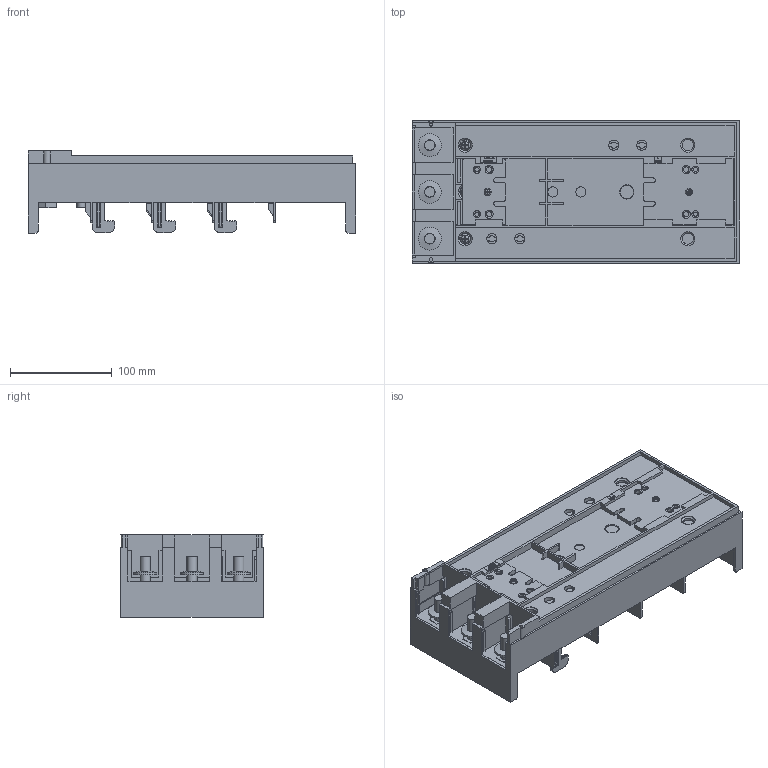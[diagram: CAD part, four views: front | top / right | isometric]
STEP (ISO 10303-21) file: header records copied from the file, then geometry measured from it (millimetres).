
FILE_DESCRIPTION (( 'STEP AP203' ), '1' );
FILE_NAME ('55630.STEP', '2021-08-30T07:58:44', ( '' ), ( '' ), 'SwSTEP 2.0', 'SolidWorks 2017', '' );
FILE_SCHEMA (( 'CONFIG_CONTROL_DESIGN' ));
Products named in the file (2): 55630
Bounding box: 322 x 140 x 81 mm (x, y, z)
Surface area: 310071.1 mm2 (no closed solid volume)
Topology: 0 solids, 33 shells, 1593 faces, 4416 edges, 2928 vertices
Faces by surface type: plane 1147, cylinder 241, bspline 159, cone 46
Full cylindrical faces by diameter (mm): 3.5 x4, 4 x2, 4.2 x7, 4.8 x3, 5.2 x4, 5.5 x3, 7 x2, 8 x3, 8.5 x3, 9.5 x3, 10 x9, 10.5 x3, 11 x5, 14 x6, 22.5 x3
Entity records: 52970 total; most frequent: CARTESIAN_POINT 13934, ORIENTED_EDGE 8456, DIRECTION 7079, EDGE_CURVE 4234, LINE 3281, VECTOR 3281, VERTEX_POINT 2861, AXIS2_PLACEMENT_3D 1899
